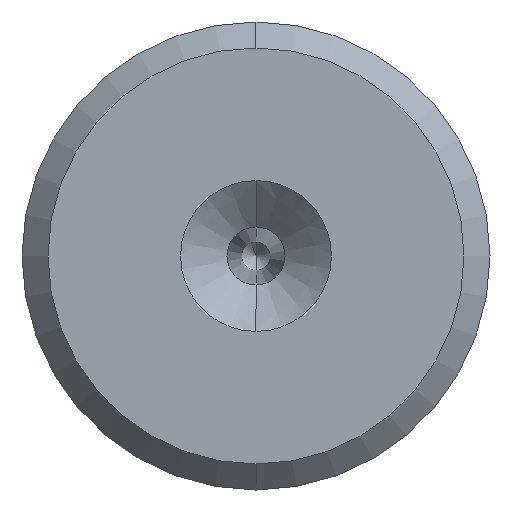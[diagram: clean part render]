
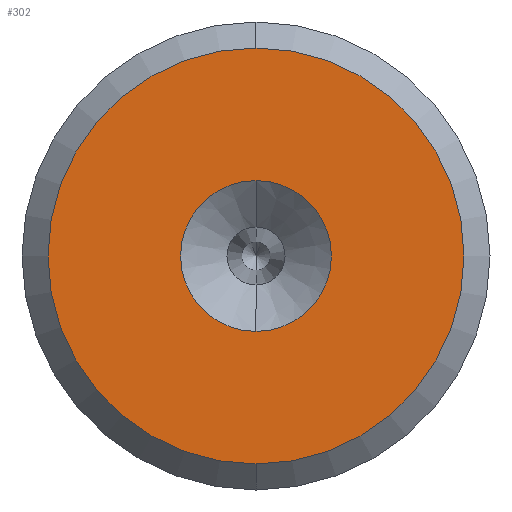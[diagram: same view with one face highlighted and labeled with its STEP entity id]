
A CAD part, left-side view. The second image highlights one B-rep face of the part: STEP entity #302.
In plain terms, the highlighted planar face has unit normal (-1, 0, 0).
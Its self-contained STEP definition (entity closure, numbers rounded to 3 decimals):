
#2 = ORIENTED_EDGE ( 'NONE', *, *, #624, .T. ) ;
#8 = VERTEX_POINT ( 'NONE', #371 ) ;
#15 = VERTEX_POINT ( 'NONE', #363 ) ;
#18 = EDGE_LOOP ( 'NONE', ( #193, #2 ) ) ;
#33 = VERTEX_POINT ( 'NONE', #393 ) ;
#35 = VERTEX_POINT ( 'NONE', #384 ) ;
#53 = ORIENTED_EDGE ( 'NONE', *, *, #614, .T. ) ;
#59 = EDGE_LOOP ( 'NONE', ( #53, #231 ) ) ;
#88 = FACE_OUTER_BOUND ( 'NONE', #59, .T. ) ;
#118 = FACE_BOUND ( 'NONE', #18, .T. ) ;
#136 = CIRCLE ( 'NONE', #682, 16. ) ;
#156 = CIRCLE ( 'NONE', #646, 5.803 ) ;
#169 = CIRCLE ( 'NONE', #286, 5.803 ) ;
#172 = CIRCLE ( 'NONE', #643, 16. ) ;
#193 = ORIENTED_EDGE ( 'NONE', *, *, #666, .T. ) ;
#231 = ORIENTED_EDGE ( 'NONE', *, *, #629, .T. ) ;
#286 = AXIS2_PLACEMENT_3D ( 'NONE', #572, #575, #585 ) ;
#302 = ADVANCED_FACE ( 'NONE', ( #88, #118 ), #439, .F. ) ;
#363 = CARTESIAN_POINT ( 'NONE',  ( 0., 0., 16. ) ) ;
#371 = CARTESIAN_POINT ( 'NONE',  ( 0., 0., -5.803 ) ) ;
#384 = CARTESIAN_POINT ( 'NONE',  ( 0., 0., -16. ) ) ;
#393 = CARTESIAN_POINT ( 'NONE',  ( 0., 0., 5.803 ) ) ;
#439 = PLANE ( 'NONE',  #663 ) ;
#443 = CARTESIAN_POINT ( 'NONE',  ( 0., 0., 0. ) ) ;
#444 = DIRECTION ( 'NONE',  ( 1., 0., 0. ) ) ;
#447 = DIRECTION ( 'NONE',  ( 0., 0., -1. ) ) ;
#494 = DIRECTION ( 'NONE',  ( 0., 0., -1. ) ) ;
#511 = CARTESIAN_POINT ( 'NONE',  ( 0., 0., 0. ) ) ;
#514 = DIRECTION ( 'NONE',  ( -1., 0., 0. ) ) ;
#536 = CARTESIAN_POINT ( 'NONE',  ( 0., 0., 0. ) ) ;
#538 = DIRECTION ( 'NONE',  ( 0., 0., -1. ) ) ;
#541 = DIRECTION ( 'NONE',  ( 0., 0., -1. ) ) ;
#542 = CARTESIAN_POINT ( 'NONE',  ( 0., 0., 0. ) ) ;
#552 = DIRECTION ( 'NONE',  ( -1., 0., 0. ) ) ;
#568 = DIRECTION ( 'NONE',  ( 1., 0., 0. ) ) ;
#572 = CARTESIAN_POINT ( 'NONE',  ( 0., 0., 0. ) ) ;
#575 = DIRECTION ( 'NONE',  ( 1., 0., 0. ) ) ;
#585 = DIRECTION ( 'NONE',  ( 0., 0., -1. ) ) ;
#614 = EDGE_CURVE ( 'NONE', #35, #15, #136, .T. ) ;
#624 = EDGE_CURVE ( 'NONE', #8, #33, #156, .T. ) ;
#629 = EDGE_CURVE ( 'NONE', #15, #35, #172, .T. ) ;
#643 = AXIS2_PLACEMENT_3D ( 'NONE', #542, #552, #538 ) ;
#646 = AXIS2_PLACEMENT_3D ( 'NONE', #536, #568, #541 ) ;
#663 = AXIS2_PLACEMENT_3D ( 'NONE', #443, #444, #447 ) ;
#666 = EDGE_CURVE ( 'NONE', #33, #8, #169, .T. ) ;
#682 = AXIS2_PLACEMENT_3D ( 'NONE', #511, #514, #494 ) ;
